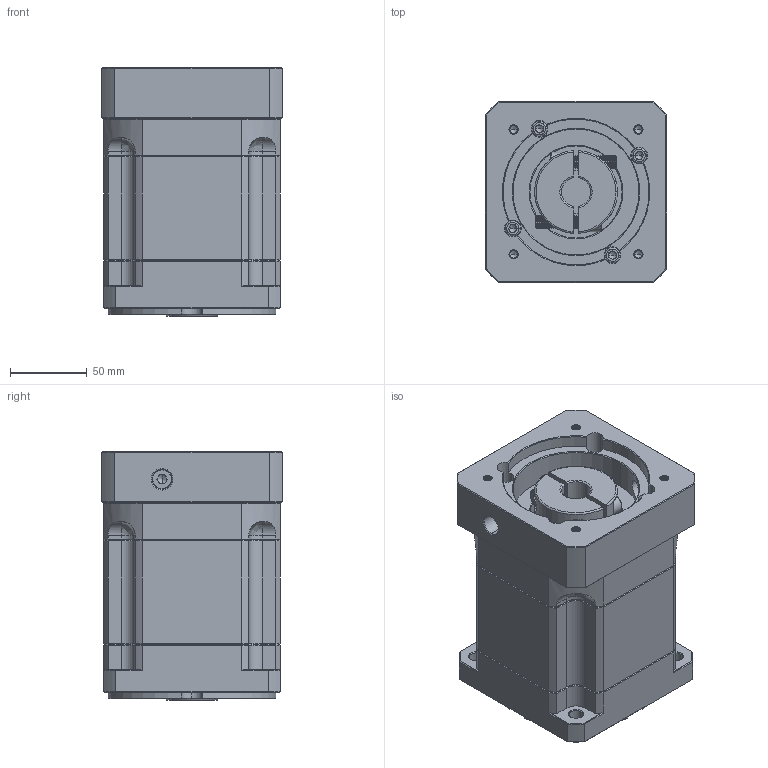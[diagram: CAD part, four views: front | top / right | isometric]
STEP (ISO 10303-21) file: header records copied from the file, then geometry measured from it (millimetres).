
FILE_DESCRIPTION (( 'STEP AP214' ), '1' );
FILE_NAME ('ZB115A-K25-L2-P2-19-95-115-M6.step', '2023-08-26T06:36:44', ( '' ), ( '' ), 'SwSTEP 2.0', 'SolidWorks 2016', '' );
FILE_SCHEMA (( 'AUTOMOTIVE_DESIGN' ));
Length unit declared in the file: millimetre
Products named in the file (1): ZB115A-K25-L2-P2-19-95-115-M6
Bounding box: 118 x 118 x 162 mm (x, y, z)
Volume: 1751970.5 mm3; surface area: 171379.1 mm2
Topology: 6 solids, 6 shells, 2327 faces, 6141 edges, 3910 vertices
Faces by surface type: plane 1137, bspline 434, cylinder 379, cone 377
Entity records: 121038 total; most frequent: CARTESIAN_POINT 41091, ORIENTED_EDGE 12218, DIRECTION 9762, EDGE_CURVE 6109, LINE 3932, VECTOR 3932, VERTEX_POINT 3910, AXIS2_PLACEMENT_3D 2915
